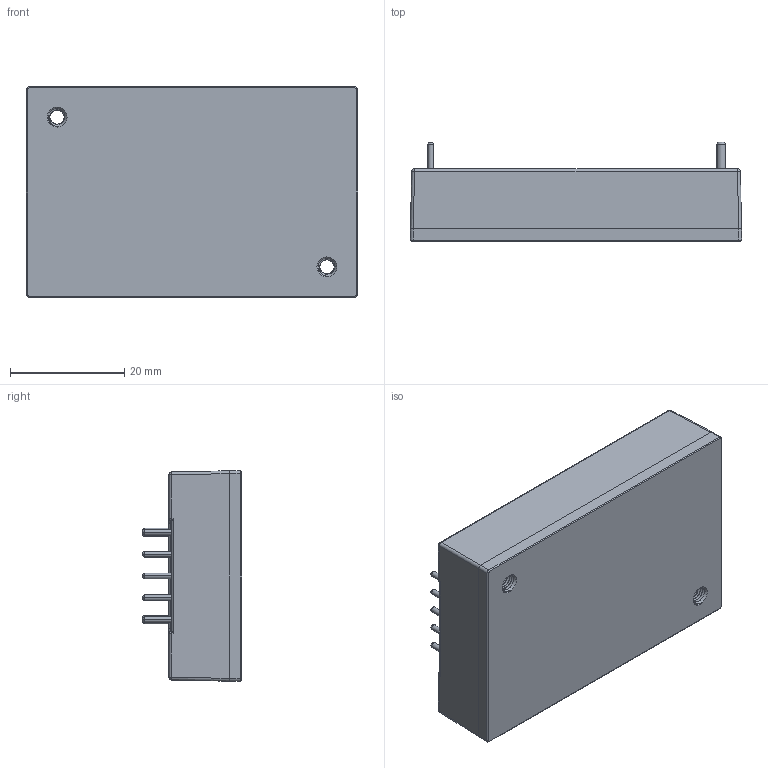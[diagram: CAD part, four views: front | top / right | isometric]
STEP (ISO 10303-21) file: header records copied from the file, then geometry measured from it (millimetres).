
FILE_DESCRIPTION((''),'2;1');
FILE_NAME('PLAN-2-100W_ASM_ASM_ASM_ASM_ASM','2021-11-17T',('eng605'),(''),'PRO/ENGINEER BY PARAMETRIC TECHNOLOGY CORPORATION, 2014000','PRO/ENGINEER BY PARAMETRIC TECHNOLOGY CORPORATION, 2014000','');
FILE_SCHEMA(('AUTOMOTIVE_DESIGN { 1 0 10303 214 1 1 1 1 }'));
Products named in the file (1): PLAN-2-100W_ASM_ASM_ASM_ASM_ASM
Bounding box: 57.9 x 17.35 x 36.8 mm (x, y, z)
Volume: 7549.6 mm3; surface area: 14667.4 mm2
Topology: 2 solids, 7 shells, 1393 faces, 3435 edges, 2139 vertices
Faces by surface type: plane 668, cylinder 473, cone 114, bspline 73, sphere 33, torus 32
Entity records: 60429 total; most frequent: CARTESIAN_POINT 17988, ORIENTED_EDGE 6804, DIRECTION 6699, EDGE_CURVE 3402, AXIS2_PLACEMENT_3D 2322, VERTEX_POINT 2139, VECTOR 2055, LINE 2055
